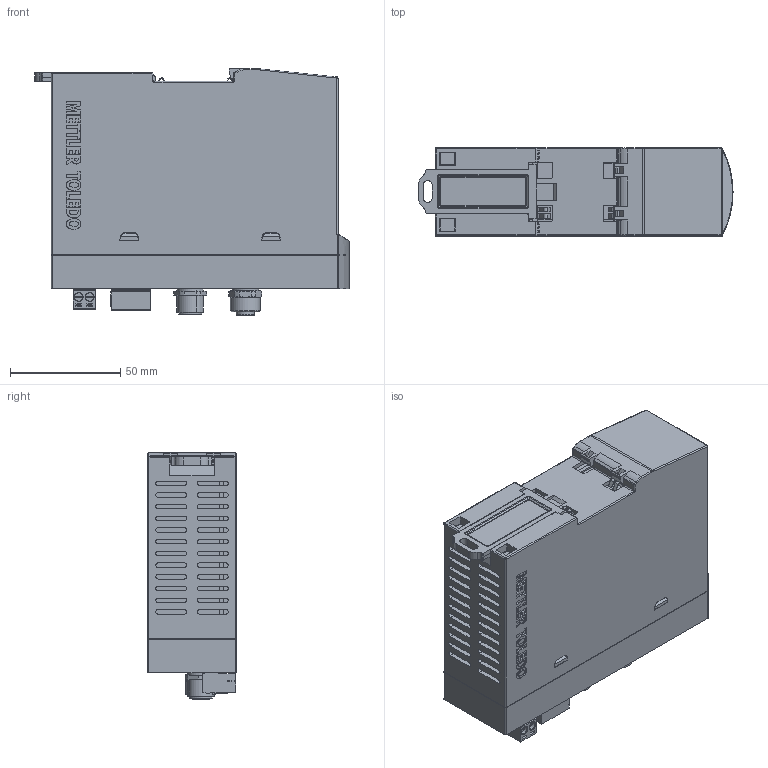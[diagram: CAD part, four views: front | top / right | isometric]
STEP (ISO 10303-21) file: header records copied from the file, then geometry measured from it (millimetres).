
FILE_DESCRIPTION((''),'2;1');
FILE_NAME('ACS210_3D','2026-05-28T10:39:55',('wang-722'),(''),'CREO PARAMETRIC BY PTC INC, 2024401','CREO PARAMETRIC BY PTC INC, 2024401','');
FILE_SCHEMA(('CONFIG_CONTROL_DESIGN'));
Products named in the file (1): ACS210_3D
Bounding box: 142.35 x 40 x 111.65 mm (x, y, z)
Volume: 408736.5 mm3; surface area: 105243.9 mm2
Topology: 2 solids, 2 shells, 5226 faces, 14561 edges, 9458 vertices
Faces by surface type: plane 3535, cylinder 1103, cone 182, torus 150, bspline 143, sphere 61, extrusion 50, revolution 2
Entity records: 194523 total; most frequent: CARTESIAN_POINT 60645, ORIENTED_EDGE 29062, DIRECTION 26069, EDGE_CURVE 14531, VECTOR 10807, LINE 10757, VERTEX_POINT 9458, AXIS2_PLACEMENT_3D 7630
